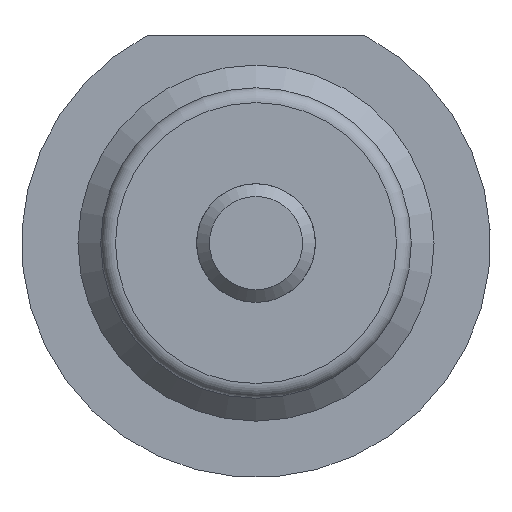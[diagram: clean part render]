
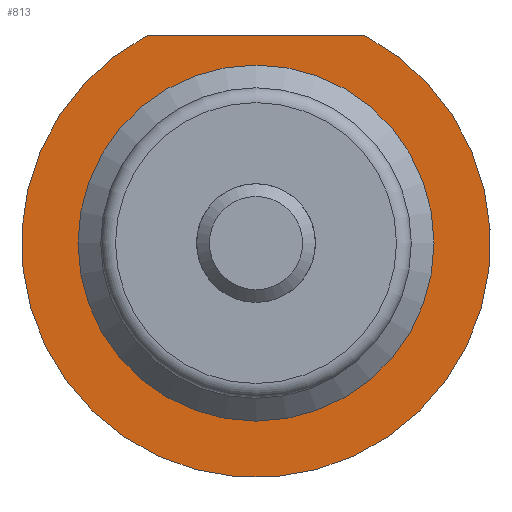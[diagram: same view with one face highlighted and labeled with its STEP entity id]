
A CAD part, left-side view. The second image highlights one B-rep face of the part: STEP entity #813.
In plain terms, the highlighted planar face has unit normal (-1, 0, 0).
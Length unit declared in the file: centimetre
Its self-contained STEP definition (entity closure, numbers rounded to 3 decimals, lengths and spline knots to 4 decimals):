
#41=PLANE($,#909);
#74=FACE_BOUND($,#330,.T.);
#123=CIRCLE($,#908,0.6);
#124=CIRCLE($,#910,0.79);
#167=LINE($,#1422,#199);
#199=VECTOR($,#1108,0.7324);
#247=FACE_OUTER_BOUND($,#329,.T.);
#329=EDGE_LOOP($,(#652,#653));
#330=EDGE_LOOP($,(#654));
#429=VERTEX_POINT($,#1416);
#430=VERTEX_POINT($,#1419);
#431=VERTEX_POINT($,#1420);
#513=EDGE_CURVE($,#429,#429,#123,.T.);
#514=EDGE_CURVE($,#430,#431,#124,.T.);
#515=EDGE_CURVE($,#430,#431,#167,.T.);
#652=ORIENTED_EDGE($,*,*,#514,.F.);
#653=ORIENTED_EDGE($,*,*,#515,.T.);
#654=ORIENTED_EDGE($,*,*,#513,.T.);
#813=ADVANCED_FACE($,(#247,#74),#41,.F.);
#908=AXIS2_PLACEMENT_3D($,#1417,#1102,#1103);
#909=AXIS2_PLACEMENT_3D($,#1418,#1104,#1105);
#910=AXIS2_PLACEMENT_3D($,#1421,#1106,#1107);
#1102=DIRECTION('center_axis',(1.,0.,0.));
#1103=DIRECTION('ref_axis',(0.,0.,
-1.));
#1104=DIRECTION('center_axis',(1.,0.,0.));
#1105=DIRECTION('ref_axis',(0.,0.,-1.));
#1106=DIRECTION('center_axis',(1.,0.,0.));
#1107=DIRECTION('ref_axis',(0.,0.,
-1.));
#1108=DIRECTION($,(0.,1.,0.));
#1416=CARTESIAN_POINT('',(1.,0.,-0.6));
#1417=CARTESIAN_POINT('Origin',(1.,0.,0.));
#1418=CARTESIAN_POINT('Origin',(1.,0.6,0.));
#1419=CARTESIAN_POINT('',(1.,-0.3662,0.7));
#1420=CARTESIAN_POINT('',(1.,0.3662,0.7));
#1421=CARTESIAN_POINT('Origin',(1.,0.,0.));
#1422=CARTESIAN_POINT($,(1.,-2.26,0.7));
